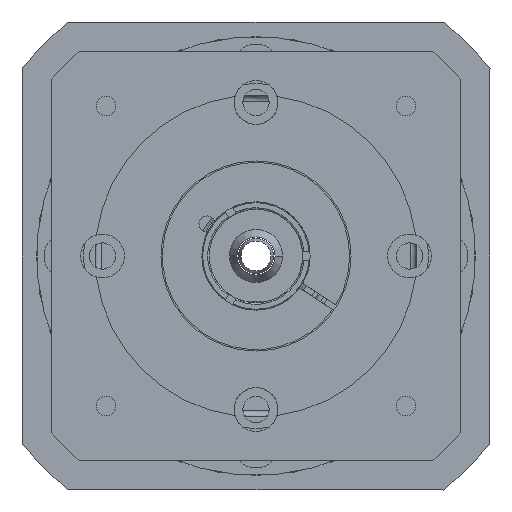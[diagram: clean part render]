
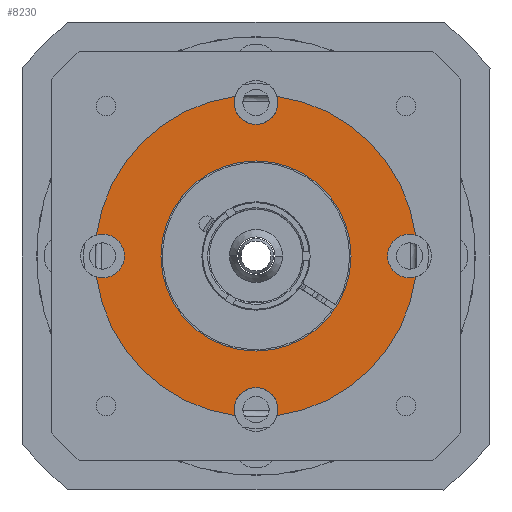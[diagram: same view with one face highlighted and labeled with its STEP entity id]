
A CAD part, front view. The second image highlights one B-rep face of the part: STEP entity #8230.
In plain terms, the highlighted planar face has unit normal (0, -1, 0).
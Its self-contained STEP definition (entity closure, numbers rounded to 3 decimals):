
#59 = CIRCLE ( 'NONE', #997, 7.5 ) ;
#205 = CARTESIAN_POINT ( 'NONE',  ( -54.524, 4., 7.222 ) ) ;
#253 = ORIENTED_EDGE ( 'NONE', *, *, #2494, .F. ) ;
#267 = EDGE_CURVE ( 'NONE', #3519, #6847, #6770, .T. ) ;
#331 = CIRCLE ( 'NONE', #9194, 7.5 ) ;
#428 = ORIENTED_EDGE ( 'NONE', *, *, #9090, .F. ) ;
#429 = DIRECTION ( 'NONE',  ( 0., -1., 0. ) ) ;
#448 = AXIS2_PLACEMENT_3D ( 'NONE', #6686, #6717, #6760 ) ;
#474 = VERTEX_POINT ( 'NONE', #2131 ) ;
#517 = CARTESIAN_POINT ( 'NONE',  ( 0., 4., -32.5 ) ) ;
#545 = VERTEX_POINT ( 'NONE', #3534 ) ;
#547 = CARTESIAN_POINT ( 'NONE',  ( 0., 4., -52.5 ) ) ;
#570 = ORIENTED_EDGE ( 'NONE', *, *, #4486, .F. ) ;
#577 = DIRECTION ( 'NONE',  ( 0., -1., 0. ) ) ;
#601 = CARTESIAN_POINT ( 'NONE',  ( -52.5, 4., 0. ) ) ;
#653 = DIRECTION ( 'NONE',  ( 0., 0., -1. ) ) ;
#654 = CIRCLE ( 'NONE', #6606, 55. ) ;
#655 = DIRECTION ( 'NONE',  ( 0., 0., -1. ) ) ;
#773 = CIRCLE ( 'NONE', #8770, 7.5 ) ;
#894 = CARTESIAN_POINT ( 'NONE',  ( 7.222, 4., -54.524 ) ) ;
#946 = CARTESIAN_POINT ( 'NONE',  ( -7.222, 4., -54.524 ) ) ;
#986 = CARTESIAN_POINT ( 'NONE',  ( 0., 4., 0. ) ) ;
#997 = AXIS2_PLACEMENT_3D ( 'NONE', #3873, #9157, #4647 ) ;
#1125 = PLANE ( 'NONE',  #1626 ) ;
#1166 = CIRCLE ( 'NONE', #3360, 55. ) ;
#1289 = CARTESIAN_POINT ( 'NONE',  ( 0., 4., 0. ) ) ;
#1342 = VERTEX_POINT ( 'NONE', #9130 ) ;
#1362 = AXIS2_PLACEMENT_3D ( 'NONE', #2283, #7533, #3010 ) ;
#1402 = DIRECTION ( 'NONE',  ( 0., 0., -1. ) ) ;
#1462 = CARTESIAN_POINT ( 'NONE',  ( 52.5, 4., 0. ) ) ;
#1547 = EDGE_CURVE ( 'NONE', #5758, #3761, #9419, .T. ) ;
#1626 = AXIS2_PLACEMENT_3D ( 'NONE', #8671, #4155, #9422 ) ;
#1747 = DIRECTION ( 'NONE',  ( 0., 0., -1. ) ) ;
#1821 = CIRCLE ( 'NONE', #3546, 7.5 ) ;
#2067 = ORIENTED_EDGE ( 'NONE', *, *, #8391, .F. ) ;
#2069 = DIRECTION ( 'NONE',  ( 0., 1., 0. ) ) ;
#2096 = EDGE_CURVE ( 'NONE', #3418, #3261, #8348, .T. ) ;
#2131 = CARTESIAN_POINT ( 'NONE',  ( -54.524, 4., -7.222 ) ) ;
#2163 = DIRECTION ( 'NONE',  ( 0., 0., -1. ) ) ;
#2181 = DIRECTION ( 'NONE',  ( 0., -1., 0. ) ) ;
#2185 = DIRECTION ( 'NONE',  ( 0., 0., -1. ) ) ;
#2193 = AXIS2_PLACEMENT_3D ( 'NONE', #1289, #2069, #2428 ) ;
#2283 = CARTESIAN_POINT ( 'NONE',  ( 0., 4., 0. ) ) ;
#2428 = DIRECTION ( 'NONE',  ( 0., 0., -1. ) ) ;
#2471 = ORIENTED_EDGE ( 'NONE', *, *, #6347, .T. ) ;
#2487 = VERTEX_POINT ( 'NONE', #6131 ) ;
#2494 = EDGE_CURVE ( 'NONE', #2487, #7048, #3590, .T. ) ;
#2523 = ORIENTED_EDGE ( 'NONE', *, *, #267, .T. ) ;
#2610 = ORIENTED_EDGE ( 'NONE', *, *, #1547, .F. ) ;
#2621 = EDGE_LOOP ( 'NONE', ( #2610, #2471, #2067, #253, #2630, #6171, #8006, #570, #4259, #4570, #4450, #6848, #428, #8864 ) ) ;
#2630 = ORIENTED_EDGE ( 'NONE', *, *, #5392, .T. ) ;
#2983 = CARTESIAN_POINT ( 'NONE',  ( -52.5, 4., 0. ) ) ;
#3010 = DIRECTION ( 'NONE',  ( 0., 0., -1. ) ) ;
#3052 = DIRECTION ( 'NONE',  ( 0., 1., 0. ) ) ;
#3073 = AXIS2_PLACEMENT_3D ( 'NONE', #601, #5882, #1402 ) ;
#3197 = VERTEX_POINT ( 'NONE', #3954 ) ;
#3261 = VERTEX_POINT ( 'NONE', #5449 ) ;
#3360 = AXIS2_PLACEMENT_3D ( 'NONE', #4949, #429, #5697 ) ;
#3418 = VERTEX_POINT ( 'NONE', #894 ) ;
#3471 = EDGE_CURVE ( 'NONE', #3418, #6652, #1166, .T. ) ;
#3519 = VERTEX_POINT ( 'NONE', #517 ) ;
#3534 = CARTESIAN_POINT ( 'NONE',  ( -52.5, 4., 7.5 ) ) ;
#3546 = AXIS2_PLACEMENT_3D ( 'NONE', #6690, #2181, #7434 ) ;
#3558 = DIRECTION ( 'NONE',  ( 0., -1., 0. ) ) ;
#3590 = CIRCLE ( 'NONE', #448, 7.5 ) ;
#3743 = DIRECTION ( 'NONE',  ( 0., 0., -1. ) ) ;
#3761 = VERTEX_POINT ( 'NONE', #7559 ) ;
#3873 = CARTESIAN_POINT ( 'NONE',  ( -52.5, 4., 0. ) ) ;
#3954 = CARTESIAN_POINT ( 'NONE',  ( 7.222, 4., 54.524 ) ) ;
#3968 = VERTEX_POINT ( 'NONE', #7808 ) ;
#4099 = EDGE_CURVE ( 'NONE', #545, #7882, #773, .T. ) ;
#4140 = EDGE_CURVE ( 'NONE', #6847, #3519, #7589, .T. ) ;
#4155 = DIRECTION ( 'NONE',  ( 0., -1., 0. ) ) ;
#4259 = ORIENTED_EDGE ( 'NONE', *, *, #7850, .T. ) ;
#4279 = CARTESIAN_POINT ( 'NONE',  ( 0., 4., -52.5 ) ) ;
#4450 = ORIENTED_EDGE ( 'NONE', *, *, #2096, .F. ) ;
#4486 = EDGE_CURVE ( 'NONE', #474, #1342, #9049, .T. ) ;
#4570 = ORIENTED_EDGE ( 'NONE', *, *, #9001, .F. ) ;
#4647 = DIRECTION ( 'NONE',  ( 0., 0., -1. ) ) ;
#4718 = ORIENTED_EDGE ( 'NONE', *, *, #4140, .T. ) ;
#4949 = CARTESIAN_POINT ( 'NONE',  ( 0., 4., 0. ) ) ;
#5043 = DIRECTION ( 'NONE',  ( 0., 0., -1. ) ) ;
#5170 = DIRECTION ( 'NONE',  ( 0., -1., 0. ) ) ;
#5392 = EDGE_CURVE ( 'NONE', #2487, #7882, #654, .T. ) ;
#5449 = CARTESIAN_POINT ( 'NONE',  ( 0., 4., -45. ) ) ;
#5629 = EDGE_CURVE ( 'NONE', #1342, #545, #59, .T. ) ;
#5697 = DIRECTION ( 'NONE',  ( 0., 0., -1. ) ) ;
#5758 = VERTEX_POINT ( 'NONE', #9700 ) ;
#5882 = DIRECTION ( 'NONE',  ( 0., -1., 0. ) ) ;
#6131 = CARTESIAN_POINT ( 'NONE',  ( -7.222, 4., 54.524 ) ) ;
#6171 = ORIENTED_EDGE ( 'NONE', *, *, #4099, .F. ) ;
#6234 = DIRECTION ( 'NONE',  ( 0., -1., 0. ) ) ;
#6347 = EDGE_CURVE ( 'NONE', #5758, #3197, #6385, .T. ) ;
#6385 = CIRCLE ( 'NONE', #1362, 55. ) ;
#6422 = FACE_OUTER_BOUND ( 'NONE', #2621, .T. ) ;
#6606 = AXIS2_PLACEMENT_3D ( 'NONE', #8109, #3558, #8861 ) ;
#6652 = VERTEX_POINT ( 'NONE', #8880 ) ;
#6686 = CARTESIAN_POINT ( 'NONE',  ( 0., 4., 52.5 ) ) ;
#6690 = CARTESIAN_POINT ( 'NONE',  ( 52.5, 4., 0. ) ) ;
#6699 = DIRECTION ( 'NONE',  ( 0., -1., 0. ) ) ;
#6717 = DIRECTION ( 'NONE',  ( 0., -1., 0. ) ) ;
#6760 = DIRECTION ( 'NONE',  ( 0., 0., -1. ) ) ;
#6770 = CIRCLE ( 'NONE', #2193, 32.5 ) ;
#6805 = CIRCLE ( 'NONE', #9094, 55. ) ;
#6847 = VERTEX_POINT ( 'NONE', #9247 ) ;
#6848 = ORIENTED_EDGE ( 'NONE', *, *, #3471, .T. ) ;
#7048 = VERTEX_POINT ( 'NONE', #8749 ) ;
#7347 = CIRCLE ( 'NONE', #7922, 7.5 ) ;
#7409 = DIRECTION ( 'NONE',  ( 0., -1., 0. ) ) ;
#7434 = DIRECTION ( 'NONE',  ( 0., 0., -1. ) ) ;
#7533 = DIRECTION ( 'NONE',  ( 0., -1., 0. ) ) ;
#7559 = CARTESIAN_POINT ( 'NONE',  ( 52.5, 4., 7.5 ) ) ;
#7566 = EDGE_CURVE ( 'NONE', #3761, #3968, #331, .T. ) ;
#7577 = CARTESIAN_POINT ( 'NONE',  ( 0., 4., 0. ) ) ;
#7589 = CIRCLE ( 'NONE', #9437, 32.5 ) ;
#7592 = AXIS2_PLACEMENT_3D ( 'NONE', #4279, #9547, #5043 ) ;
#7657 = EDGE_LOOP ( 'NONE', ( #4718, #2523 ) ) ;
#7703 = AXIS2_PLACEMENT_3D ( 'NONE', #547, #577, #655 ) ;
#7808 = CARTESIAN_POINT ( 'NONE',  ( 52.5, 4., -7.5 ) ) ;
#7850 = EDGE_CURVE ( 'NONE', #474, #9374, #6805, .T. ) ;
#7882 = VERTEX_POINT ( 'NONE', #205 ) ;
#7922 = AXIS2_PLACEMENT_3D ( 'NONE', #9679, #5170, #653 ) ;
#8006 = ORIENTED_EDGE ( 'NONE', *, *, #5629, .F. ) ;
#8109 = CARTESIAN_POINT ( 'NONE',  ( 0., 4., 0. ) ) ;
#8183 = CARTESIAN_POINT ( 'NONE',  ( 52.5, 4., 0. ) ) ;
#8192 = FACE_BOUND ( 'NONE', #7657, .T. ) ;
#8230 = ADVANCED_FACE ( 'NONE', ( #6422, #8192 ), #1125, .T. ) ;
#8273 = DIRECTION ( 'NONE',  ( 0., -1., 0. ) ) ;
#8337 = DIRECTION ( 'NONE',  ( 0., 0., -1. ) ) ;
#8348 = CIRCLE ( 'NONE', #7703, 7.5 ) ;
#8391 = EDGE_CURVE ( 'NONE', #7048, #3197, #7347, .T. ) ;
#8671 = CARTESIAN_POINT ( 'NONE',  ( 0., 4., 0. ) ) ;
#8749 = CARTESIAN_POINT ( 'NONE',  ( 0., 4., 45. ) ) ;
#8770 = AXIS2_PLACEMENT_3D ( 'NONE', #2983, #8273, #3743 ) ;
#8861 = DIRECTION ( 'NONE',  ( 0., 0., -1. ) ) ;
#8864 = ORIENTED_EDGE ( 'NONE', *, *, #7566, .F. ) ;
#8880 = CARTESIAN_POINT ( 'NONE',  ( 54.524, 4., -7.222 ) ) ;
#9001 = EDGE_CURVE ( 'NONE', #3261, #9374, #9690, .T. ) ;
#9049 = CIRCLE ( 'NONE', #3073, 7.5 ) ;
#9090 = EDGE_CURVE ( 'NONE', #3968, #6652, #1821, .T. ) ;
#9094 = AXIS2_PLACEMENT_3D ( 'NONE', #986, #6234, #1747 ) ;
#9130 = CARTESIAN_POINT ( 'NONE',  ( -52.5, 4., -7.5 ) ) ;
#9157 = DIRECTION ( 'NONE',  ( 0., -1., 0. ) ) ;
#9194 = AXIS2_PLACEMENT_3D ( 'NONE', #1462, #6699, #2185 ) ;
#9247 = CARTESIAN_POINT ( 'NONE',  ( 0., 4., 32.5 ) ) ;
#9350 = AXIS2_PLACEMENT_3D ( 'NONE', #8183, #7409, #2163 ) ;
#9374 = VERTEX_POINT ( 'NONE', #946 ) ;
#9419 = CIRCLE ( 'NONE', #9350, 7.5 ) ;
#9422 = DIRECTION ( 'NONE',  ( 0., 0., -1. ) ) ;
#9437 = AXIS2_PLACEMENT_3D ( 'NONE', #7577, #3052, #8337 ) ;
#9547 = DIRECTION ( 'NONE',  ( 0., -1., 0. ) ) ;
#9679 = CARTESIAN_POINT ( 'NONE',  ( 0., 4., 52.5 ) ) ;
#9690 = CIRCLE ( 'NONE', #7592, 7.5 ) ;
#9700 = CARTESIAN_POINT ( 'NONE',  ( 54.524, 4., 7.222 ) ) ;
